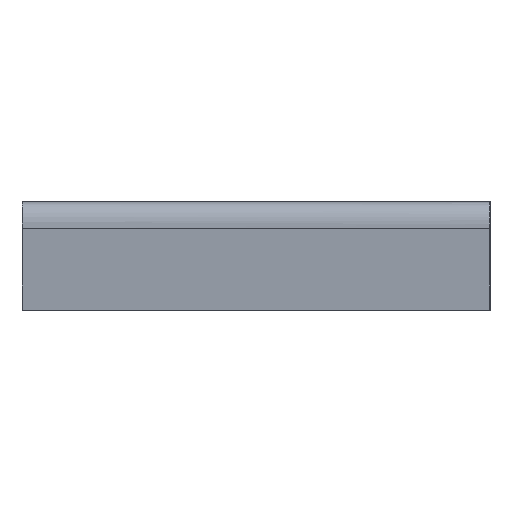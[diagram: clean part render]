
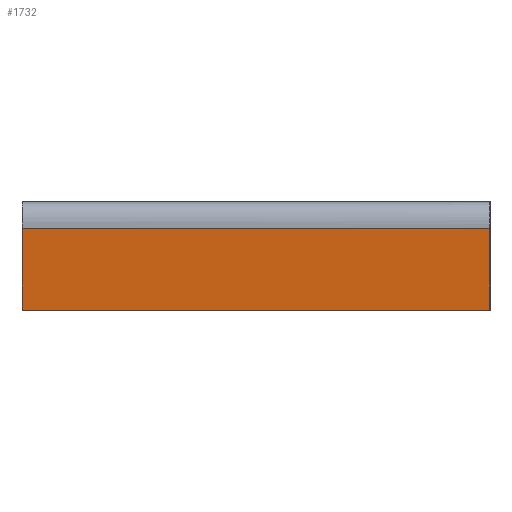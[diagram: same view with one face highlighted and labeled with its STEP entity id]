
A CAD part, left-side view. The second image highlights one B-rep face of the part: STEP entity #1732.
In plain terms, the highlighted planar face has unit normal (-0.996, 0, -0.091).
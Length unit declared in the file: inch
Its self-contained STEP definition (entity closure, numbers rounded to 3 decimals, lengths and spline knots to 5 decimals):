
#305 = EDGE_CURVE ( 'NONE', #1704, #18777, #15401, .T. ) ;
#504 = VECTOR ( 'NONE', #6116, 39.37008 ) ;
#860 = VECTOR ( 'NONE', #8583, 39.37008 ) ;
#1481 = LINE ( 'NONE', #19631, #2110 ) ;
#1704 = VERTEX_POINT ( 'NONE', #16914 ) ;
#1732 = ADVANCED_FACE ( 'NONE', ( #5814 ), #18950, .F. ) ;
#2110 = VECTOR ( 'NONE', #21375, 39.37008 ) ;
#2559 = ORIENTED_EDGE ( 'NONE', *, *, #4308, .F. ) ;
#2614 = CARTESIAN_POINT ( 'NONE',  ( -30.1775, 22.9375, 1.34581 ) ) ;
#2984 = CARTESIAN_POINT ( 'NONE',  ( -30.1775, 22.9375, 1.34581 ) ) ;
#4308 = EDGE_CURVE ( 'NONE', #6149, #1704, #20731, .T. ) ;
#4843 = EDGE_CURVE ( 'NONE', #6207, #18777, #1481, .T. ) ;
#5814 = FACE_OUTER_BOUND ( 'NONE', #15905, .T. ) ;
#6116 = DIRECTION ( 'NONE',  ( -0.091, 0., 0.996 ) ) ;
#6149 = VERTEX_POINT ( 'NONE', #2614 ) ;
#6207 = VERTEX_POINT ( 'NONE', #8559 ) ;
#8477 = CARTESIAN_POINT ( 'NONE',  ( -30.1775, 0., 1.34581 ) ) ;
#8479 = EDGE_CURVE ( 'NONE', #6207, #6149, #21004, .T. ) ;
#8559 = CARTESIAN_POINT ( 'NONE',  ( -29.8125, 22.9375, -2.65625 ) ) ;
#8583 = DIRECTION ( 'NONE',  ( 0.091, 0., -0.996 ) ) ;
#9159 = ORIENTED_EDGE ( 'NONE', *, *, #8479, .F. ) ;
#10538 = CARTESIAN_POINT ( 'NONE',  ( -30.1775, 83.60514, 1.34581 ) ) ;
#11586 = VECTOR ( 'NONE', #15515, 39.37008 ) ;
#11868 = ORIENTED_EDGE ( 'NONE', *, *, #305, .F. ) ;
#12577 = AXIS2_PLACEMENT_3D ( 'NONE', #19169, #20916, #21030 ) ;
#14286 = ORIENTED_EDGE ( 'NONE', *, *, #4843, .T. ) ;
#14488 = CARTESIAN_POINT ( 'NONE',  ( -29.8125, 0., -2.65625 ) ) ;
#15401 = LINE ( 'NONE', #8477, #860 ) ;
#15515 = DIRECTION ( 'NONE',  ( 0., -1., 0. ) ) ;
#15905 = EDGE_LOOP ( 'NONE', ( #14286, #11868, #2559, #9159 ) ) ;
#16914 = CARTESIAN_POINT ( 'NONE',  ( -30.1775, 0., 1.34581 ) ) ;
#18777 = VERTEX_POINT ( 'NONE', #14488 ) ;
#18950 = PLANE ( 'NONE',  #12577 ) ;
#19169 = CARTESIAN_POINT ( 'NONE',  ( -30.1775, 83.60514, 1.34581 ) ) ;
#19631 = CARTESIAN_POINT ( 'NONE',  ( -29.8125, 83.60514, -2.65625 ) ) ;
#20731 = LINE ( 'NONE', #10538, #11586 ) ;
#20916 = DIRECTION ( 'NONE',  ( 0.996, 0., 0.091 ) ) ;
#21004 = LINE ( 'NONE', #2984, #504 ) ;
#21030 = DIRECTION ( 'NONE',  ( -0.091, 0., 0.996 ) ) ;
#21375 = DIRECTION ( 'NONE',  ( 0., -1., 0. ) ) ;
